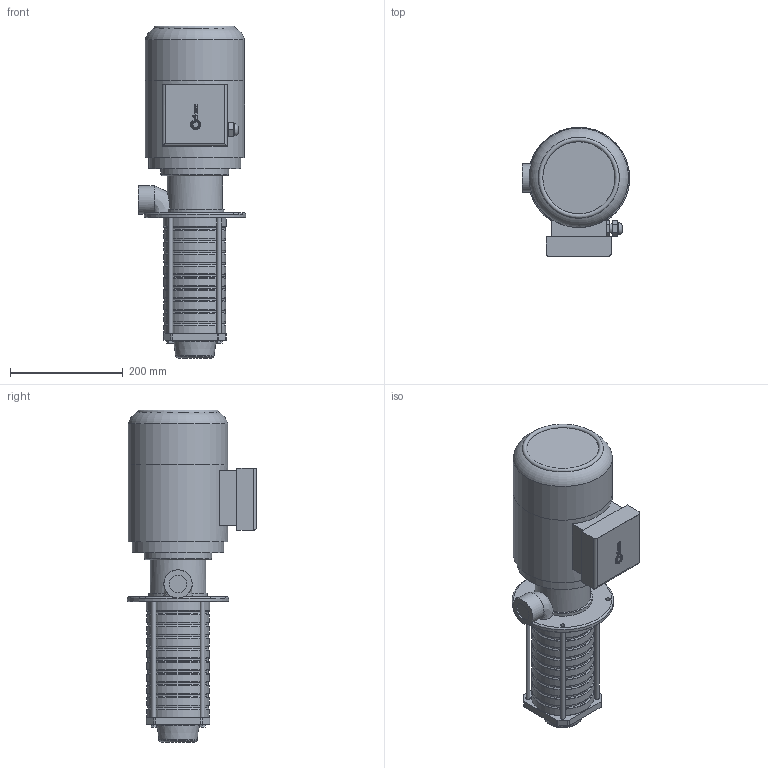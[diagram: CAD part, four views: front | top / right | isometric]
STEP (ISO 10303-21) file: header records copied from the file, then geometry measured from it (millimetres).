
FILE_DESCRIPTION(/* description */ ('Unknown'),/* implementation_level */ '2;1');
FILE_NAME(/* name */ 'hdb08',/* time_stamp */ '2025-06-17T14:59:16+03:00',/* author */ ('Unknown'),/* organization */ ('Unknown'),/* preprocessor_version */ 'ST-DEVELOPER v16.7',/* originating_system */ 'DEX',/* authorisation */ $);
FILE_SCHEMA (('AUTOMOTIVE_DESIGN {1 0 10303 214 3 1 1}'));
Length unit declared in the file: millimetre
Products named in the file (1): hdb08
Bounding box: 190 x 229.5 x 588.01 mm (x, y, z)
Volume: 9799371.1 mm3; surface area: 399050.6 mm2
Topology: 1 solids, 1 shells, 270 faces, 648 edges, 419 vertices
Faces by surface type: plane 106, bspline 67, cylinder 58, torus 26, cone 13
Full cylindrical faces by diameter (mm): 7.5 x4, 8 x4, 17 x1, 21.5 x1, 31 x1, 50 x1, 98.181 x1, 106.9 x9, 110 x9, 112 x1, 120 x1, 162.64 x1, 175.993 x1, 176 x1, 180 x1
Entity records: 10066 total; most frequent: CARTESIAN_POINT 4451, ORIENTED_EDGE 1118, DIRECTION 973, EDGE_CURVE 559, VERTEX_POINT 407, EDGE_LOOP 402, FACE_BOUND 402, AXIS2_PLACEMENT_3D 352
